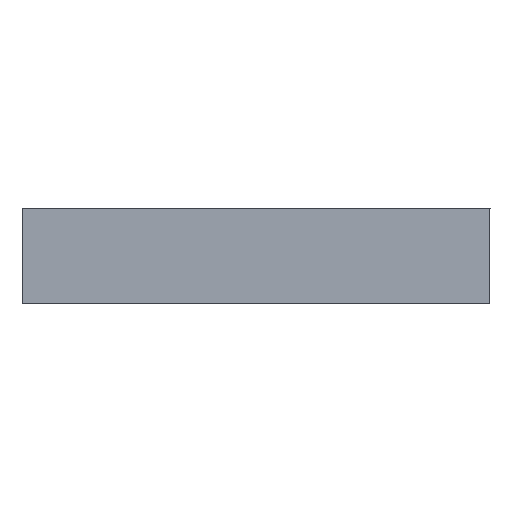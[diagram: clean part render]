
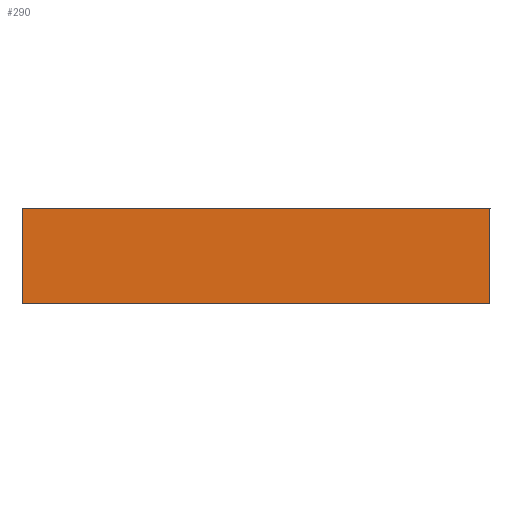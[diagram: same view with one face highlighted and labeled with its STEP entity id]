
A CAD part, front view. The second image highlights one B-rep face of the part: STEP entity #290.
In plain terms, the highlighted planar face has unit normal (0, -1, 0).
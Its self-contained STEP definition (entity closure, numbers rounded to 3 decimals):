
#4 = CARTESIAN_POINT ( 'NONE',  ( -12.25, -70., -5. ) ) ;
#8 = EDGE_CURVE ( 'NONE', #291, #112, #25, .T. ) ;
#11 = ORIENTED_EDGE ( 'NONE', *, *, #39, .T. ) ;
#13 = AXIS2_PLACEMENT_3D ( 'NONE', #102, #170, #31 ) ;
#20 = DIRECTION ( 'NONE',  ( 0., 0., 1. ) ) ;
#25 = LINE ( 'NONE', #229, #44 ) ;
#31 = DIRECTION ( 'NONE',  ( 0., 0., -1. ) ) ;
#36 = ORIENTED_EDGE ( 'NONE', *, *, #8, .F. ) ;
#39 = EDGE_CURVE ( 'NONE', #253, #196, #146, .T. ) ;
#43 = CARTESIAN_POINT ( 'NONE',  ( -12.25, -70., -5. ) ) ;
#44 = VECTOR ( 'NONE', #143, 1000. ) ;
#48 = EDGE_CURVE ( 'NONE', #196, #112, #93, .T. ) ;
#51 = CARTESIAN_POINT ( 'NONE',  ( -12.25, -70., -5. ) ) ;
#71 = VECTOR ( 'NONE', #20, 1000. ) ;
#93 = LINE ( 'NONE', #188, #71 ) ;
#102 = CARTESIAN_POINT ( 'NONE',  ( -12.25, -70., -5. ) ) ;
#103 = LINE ( 'NONE', #4, #130 ) ;
#112 = VERTEX_POINT ( 'NONE', #236 ) ;
#130 = VECTOR ( 'NONE', #189, 1000. ) ;
#135 = EDGE_LOOP ( 'NONE', ( #36, #230, #11, #292 ) ) ;
#141 = DIRECTION ( 'NONE',  ( 1., 0., 0. ) ) ;
#143 = DIRECTION ( 'NONE',  ( 1., 0., 0. ) ) ;
#146 = LINE ( 'NONE', #43, #215 ) ;
#170 = DIRECTION ( 'NONE',  ( 0., -1., 0. ) ) ;
#172 = CARTESIAN_POINT ( 'NONE',  ( -12.25, -70., 0. ) ) ;
#188 = CARTESIAN_POINT ( 'NONE',  ( 12.25, -70., -5. ) ) ;
#189 = DIRECTION ( 'NONE',  ( 0., 0., 1. ) ) ;
#196 = VERTEX_POINT ( 'NONE', #284 ) ;
#215 = VECTOR ( 'NONE', #141, 1000. ) ;
#229 = CARTESIAN_POINT ( 'NONE',  ( -12.25, -70., 0. ) ) ;
#230 = ORIENTED_EDGE ( 'NONE', *, *, #276, .F. ) ;
#236 = CARTESIAN_POINT ( 'NONE',  ( 12.25, -70., 0. ) ) ;
#253 = VERTEX_POINT ( 'NONE', #51 ) ;
#260 = PLANE ( 'NONE',  #13 ) ;
#276 = EDGE_CURVE ( 'NONE', #253, #291, #103, .T. ) ;
#282 = FACE_OUTER_BOUND ( 'NONE', #135, .T. ) ;
#284 = CARTESIAN_POINT ( 'NONE',  ( 12.25, -70., -5. ) ) ;
#290 = ADVANCED_FACE ( 'NONE', ( #282 ), #260, .T. ) ;
#291 = VERTEX_POINT ( 'NONE', #172 ) ;
#292 = ORIENTED_EDGE ( 'NONE', *, *, #48, .T. ) ;
